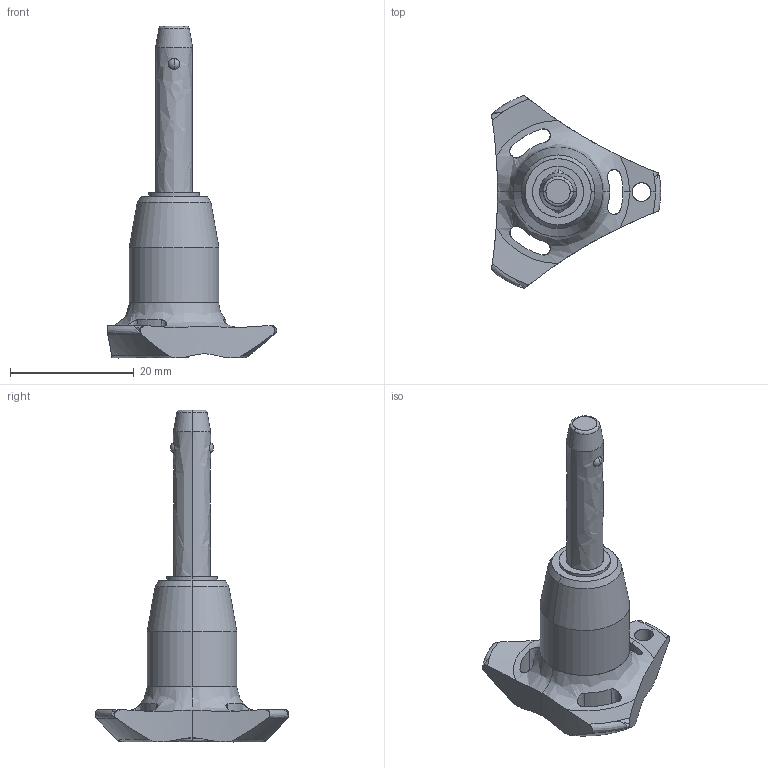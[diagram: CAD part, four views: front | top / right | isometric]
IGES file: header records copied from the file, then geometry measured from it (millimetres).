
Start section: SolidWorks IGES file using analytic representation for surfaces
Global section: file name: C:\Users\ianosborn\Desktop\QR1734_v2\QR1734_v2_20251113_IGES\QR1734.M06-020-S.igs; native system: SolidWorks 2019; preprocessor: SolidWorks 2019; author: IanOsborn; date: 251112.141624; units: millimetre
Bounding box: 27.4 x 31.31 x 53.7 mm (x, y, z)
Surface area: 2929.9 mm2 (no closed solid volume)
Topology: 0 solids, 0 shells, 66 faces, 1251 edges, 1232 vertices
Faces by surface type: revolution 50, bspline 16
